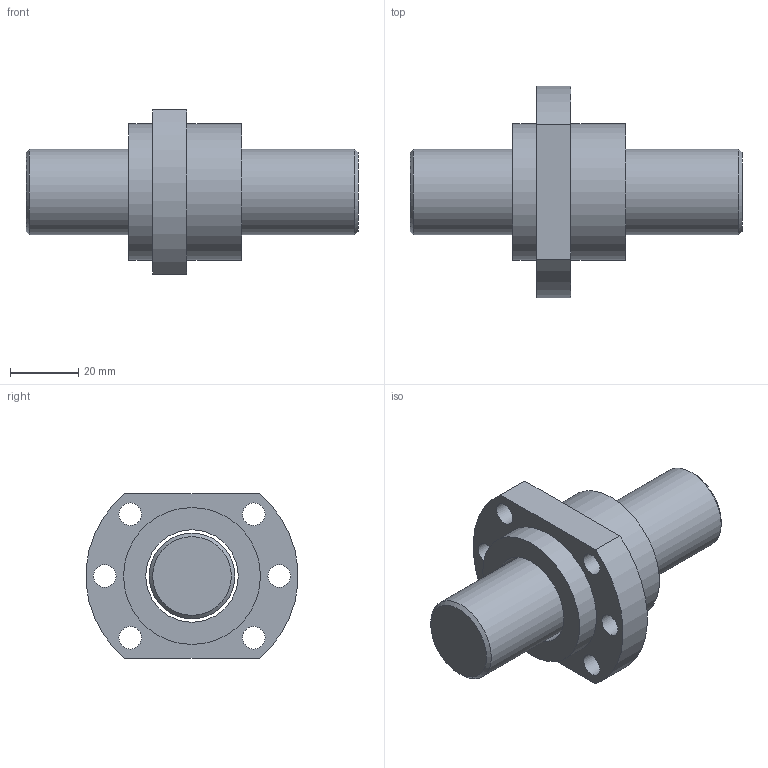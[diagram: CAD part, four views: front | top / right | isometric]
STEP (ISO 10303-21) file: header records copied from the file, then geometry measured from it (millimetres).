
FILE_DESCRIPTION(/* description */ (''),/* implementation_level */ '2;1');
FILE_NAME(/* name */ 'SFA2505-3.8.stp',/* time_stamp */ '2019-04-01T16:09:24+08:00',/* author */ (''),/* organization */ (''),/* preprocessor_version */ 'ST-DEVELOPER v14',/* originating_system */ 'SIEMENS PLM Software NX 8.0',/* authorisation */ '');
FILE_SCHEMA (('AP203_CONFIGURATION_CONTROLLED_3D_DESIGN_OF_MECHANICAL_PARTS_AND_ASSEMBLIES_MIM_LF { 1 0 10303 403 2 1 2}'));
Length unit declared in the file: millimetre
Products named in the file (1): 00250F9064919b7q
Bounding box: 97 x 61.8 x 48 mm (x, y, z)
Volume: 81930.4 mm3; surface area: 21053.4 mm2
Topology: 2 solids, 2 shells, 22 faces, 49 edges, 33 vertices
Faces by surface type: cylinder 12, plane 8, cone 2
Full cylindrical faces by diameter (mm): 6.6 x6, 25 x1, 27 x1, 40 x2
Entity records: 658 total; most frequent: DIRECTION 106, CARTESIAN_POINT 87, ORIENTED_EDGE 68, EDGE_LOOP 50, AXIS2_PLACEMENT_3D 49, FACE_BOUND 44, EDGE_CURVE 34, VERTEX_POINT 30
